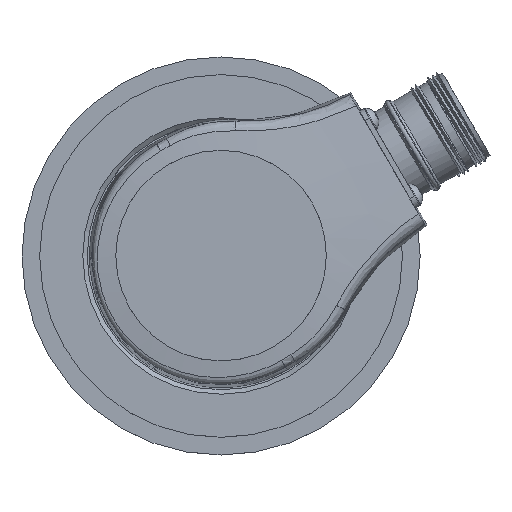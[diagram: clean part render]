
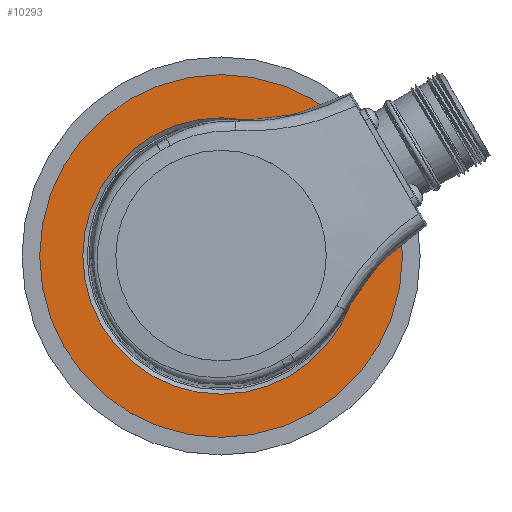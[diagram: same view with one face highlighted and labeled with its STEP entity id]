
A CAD part, top view. The second image highlights one B-rep face of the part: STEP entity #10293.
In plain terms, the highlighted planar face has unit normal (0, 0, 1).
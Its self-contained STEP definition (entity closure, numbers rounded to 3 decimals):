
#1399=ORIENTED_EDGE('',*,*,#3008,.F.);
#1400=ORIENTED_EDGE('',*,*,#3007,.T.);
#3007=EDGE_CURVE('',#3889,#3889,#4549,.T.);
#3008=EDGE_CURVE('',#3890,#3890,#4550,.T.);
#3889=VERTEX_POINT('',#14187);
#3890=VERTEX_POINT('',#14190);
#4549=CIRCLE('',#10964,41.);
#4550=CIRCLE('',#10966,31.25);
#5070=EDGE_LOOP('',(#1399));
#5071=EDGE_LOOP('',(#1400));
#5880=FACE_BOUND('',#5070,.T.);
#5881=FACE_BOUND('',#5071,.T.);
#6458=PLANE('',#10965);
#10293=ADVANCED_FACE('',(#5880,#5881),#6458,.T.);
#10964=AXIS2_PLACEMENT_3D('',#14186,#12129,#12130);
#10965=AXIS2_PLACEMENT_3D('',#14188,#12131,#12132);
#10966=AXIS2_PLACEMENT_3D('',#14189,#12133,#12134);
#12129=DIRECTION('',(0.,0.,1.));
#12130=DIRECTION('',(0.5,0.866,0.));
#12131=DIRECTION('',(0.,0.,1.));
#12132=DIRECTION('',(0.5,0.866,0.));
#12133=DIRECTION('',(0.,0.,1.));
#12134=DIRECTION('',(0.5,0.866,0.));
#14186=CARTESIAN_POINT('',(0.,0.,-4.5));
#14187=CARTESIAN_POINT('',(20.5,35.507,-4.5));
#14188=CARTESIAN_POINT('',(15.625,27.063,-4.5));
#14189=CARTESIAN_POINT('',(0.,0.,-4.5));
#14190=CARTESIAN_POINT('',(15.625,27.063,-4.5));
